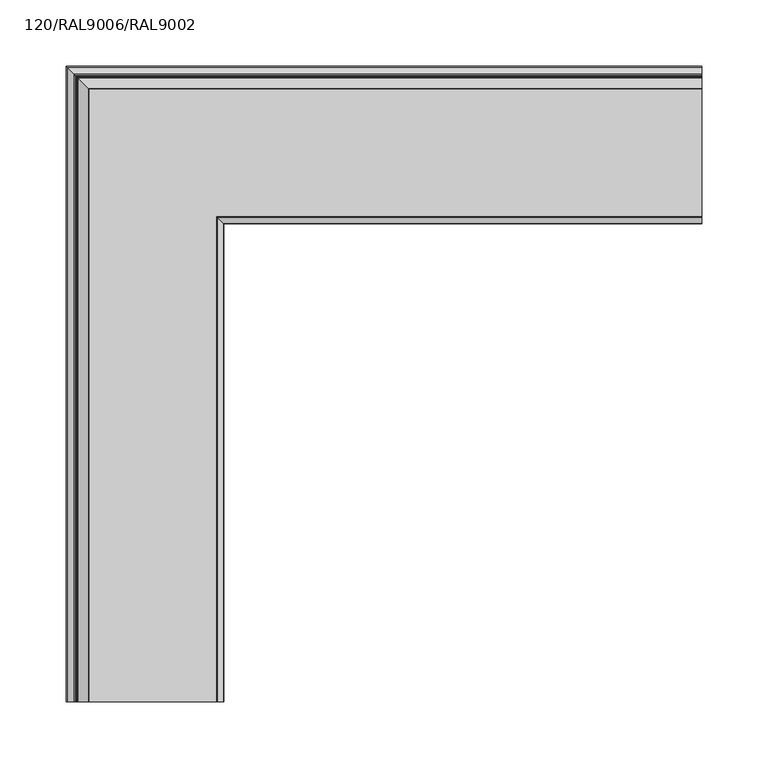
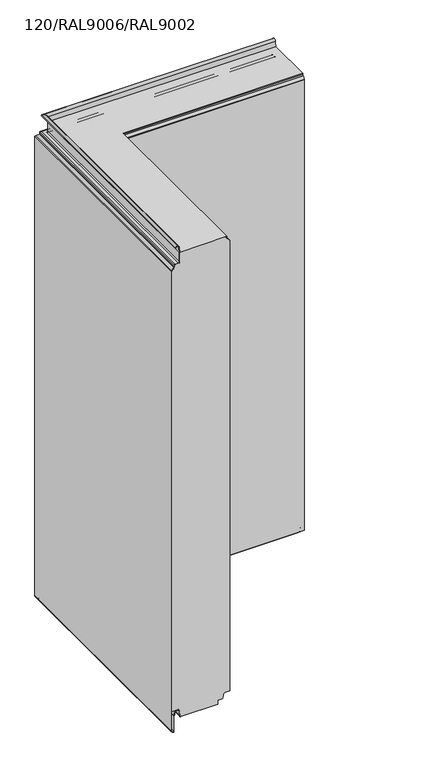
"""IFC4 building model written with IfcOpenShell, lengths in millimetres: plate geometry, TR_C_H_FHL_Corner_Tr_B : 120/RAL9006/RAL9002."""

from ifc_helpers import new_model, si_unit, frame, origin, place, context, project, spatial, polyline, circle_curve, ellipse_curve, source, transform, mapped, element, save
from ifc_brep_helpers import plane_surface, cylinder_surface, revolved_surface, advanced_brep


def plate_120_ral9006_ral9002_b9891fc8(model_context):
    return source(origin(), model_context, "Body", "AdvancedBrep", [
        advanced_brep(
        [(240.0, -17.4455763, 1000.0), (240.0, -113.2, 1000.0), (240.0, -113.2, 998.1), (240.0, -114.1665476, 995.7665476), (240.0, -118.5556349, 991.3774603), (240.0, -119.2, 989.8218254), (240.0, -119.2, 19.9), (240.0, -110.55, 19.9), (240.0, -106.364567, 16.3880048), (240.0, -105.0281817, 8.808987), (240.0, -103.9448932, 7.9), (240.0, -94.86, 7.9), (240.0, -94.86, 0.0), (240.0, -20.8, 0.0), (240.0, -19.7908279, 0.1), (240.0, -18.0972969, 1.6518352), (240.0, -17.2333835, 11.5264116), (240.0, -12.3520294, 15.9993484), (240.0, -0.8, 15.9993484), (240.0, -0.8, 963.4370797), (240.0, -1.3564971, 964.7805826), (240.0, -6.179899, 969.6039845), (240.0, -7.0, 971.5838835), (240.0, -7.0, 974.4), (240.0, -8.9, 976.3), (240.0, -14.8, 976.3), (240.0, -17.6, 979.1), (240.0, -17.6, 998.2349288), (-222.5544237, -17.4455763, 1000.0), (-222.5544237, -480.0, 1000.0), (-126.8, -480.0, 1000.0), (-126.8, -113.2, 1000.0), (-120.8, -119.2, 989.8218254), (-120.8, -119.2, 19.9), (-145.14, -94.86, 0.0), (-145.14, -480.0, 0.0), (-219.2, -480.0, 0.0), (-219.2, -20.8, 0.0), (-239.2, -0.8, 15.9993484), (-239.2, -0.8, 963.4370797), (-222.4, -480.0, 998.2349288), (-222.4, -480.0, 979.1), (-225.2, -480.0, 976.3), (-231.1, -480.0, 976.3), (-233.0, -480.0, 974.4), (-233.0, -480.0, 971.5838835), (-233.820101, -480.0, 969.6039845), (-238.6435029, -480.0, 964.7805826), (-239.2, -480.0, 963.4370797), (-239.2, -480.0, 15.9993484), (-227.6479706, -480.0, 15.9993484), (-222.7666165, -480.0, 11.5264116), (-221.9027031, -480.0, 1.6518352), (-220.2091721, -480.0, 0.1), (-145.14, -480.0, 7.9), (-136.0551068, -480.0, 7.9), (-134.9718183, -480.0, 8.808987), (-133.635433, -480.0, 16.3880048), (-129.45, -480.0, 19.9), (-120.8, -480.0, 19.9), (-120.8, -480.0, 989.8218254), (-121.4443651, -480.0, 991.3774603), (-125.8334524, -480.0, 995.7665476), (-126.8, -480.0, 998.1), (-126.8, -113.2, 998.1), (-125.8334524, -114.1665476, 995.7665476), (-121.4443651, -118.5556349, 991.3774603), (-129.45, -110.55, 19.9), (-133.635433, -106.364567, 16.3880048), (-134.9718183, -105.0281817, 8.808987), (-136.0551068, -103.9448932, 7.9), (-145.14, -94.86, 7.9), (-220.2091721, -19.7908279, 0.1), (-221.9027031, -18.0972969, 1.6518352), (-222.7666165, -17.2333835, 11.5264116), (-227.6479706, -12.3520294, 15.9993484), (-238.6435029, -1.3564971, 964.7805826), (-233.820101, -6.179899, 969.6039845), (-233.0, -7.0, 971.5838835), (-233.0, -7.0, 974.4), (-231.1, -8.9, 976.3), (-225.2, -14.8, 976.3), (-222.4, -17.6, 979.1), (-222.4, -17.6, 998.2349288)],
        [
            (0, 1),
            (1, 2),
            (2, 3, circle_curve(frame((240.0, -116.5, 998.1), z_axis=(-1.0, 0.0, 0.0), x_axis=(0.0, -1.0, 0.0)), 3.3)),
            (3, 4),
            (4, 5, circle_curve(frame((240.0, -117.0, 989.8218254), z_axis=(1.0, 0.0, 0.0), x_axis=(0.0, -1.0, 0.0)), 2.2)),
            (5, 6),
            (6, 7),
            (7, 8, circle_curve(frame((240.0, -110.55, 15.65), z_axis=(-1.0, 0.0, 0.0), x_axis=(0.0, -1.0, 0.0)), 4.25)),
            (8, 9),
            (9, 10, circle_curve(frame((240.0, -103.9448932, 9.0), z_axis=(1.0, 0.0, 0.0), x_axis=(0.0, -1.0, 0.0)), 1.1)),
            (10, 11),
            (11, 12),
            (12, 13),
            (13, 14),
            (14, 15, circle_curve(frame((240.0, -19.7908279, 1.8), z_axis=(1.0, 0.0, 0.0), x_axis=(0.0, -1.0, 0.0)), 1.7)),
            (15, 16),
            (16, 17, circle_curve(frame((240.0, -12.3520294, 11.0993484), z_axis=(-1.0, 0.0, 0.0), x_axis=(0.0, -1.0, 0.0)), 4.9)),
            (17, 18),
            (18, 19),
            (19, 20, circle_curve(frame((240.0, -2.7, 963.4370797), z_axis=(1.0, 0.0, 0.0), x_axis=(0.0, -1.0, 0.0)), 1.9)),
            (20, 21),
            (21, 22, circle_curve(frame((240.0, -4.2, 971.5838835), z_axis=(-1.0, 0.0, 0.0), x_axis=(0.0, -1.0, 0.0)), 2.8)),
            (22, 23),
            (23, 24, circle_curve(frame((240.0, -8.9, 974.4), z_axis=(1.0, 0.0, 0.0), x_axis=(0.0, -1.0, 0.0)), 1.9)),
            (24, 25),
            (25, 26, circle_curve(frame((240.0, -14.8, 979.1), z_axis=(-1.0, 0.0, 0.0), x_axis=(0.0, -1.0, 0.0)), 2.8)),
            (26, 27),
            (27, 0),
            (0, 28),
            (28, 29),
            (29, 30),
            (30, 31),
            (31, 1),
            (5, 32),
            (32, 33),
            (33, 6),
            (12, 34),
            (34, 35),
            (35, 36),
            (36, 37),
            (37, 13),
            (18, 38),
            (38, 39),
            (39, 19),
            (29, 40),
            (40, 41),
            (41, 42, circle_curve(frame((-225.2, -480.0, 979.1), z_axis=(0.0, 1.0, 0.0), x_axis=(1.0, 0.0, 0.0)), 2.8)),
            (42, 43),
            (43, 44, circle_curve(frame((-231.1, -480.0, 974.4), z_axis=(0.0, -1.0, 0.0), x_axis=(1.0, 0.0, 0.0)), 1.9)),
            (44, 45),
            (45, 46, circle_curve(frame((-235.8, -480.0, 971.5838835), z_axis=(0.0, 1.0, 0.0), x_axis=(1.0, 0.0, 0.0)), 2.8)),
            (46, 47),
            (47, 48, circle_curve(frame((-237.3, -480.0, 963.4370797), z_axis=(0.0, -1.0, 0.0), x_axis=(1.0, 0.0, 0.0)), 1.9)),
            (48, 49),
            (49, 50),
            (50, 51, circle_curve(frame((-227.6479706, -480.0, 11.0993484), z_axis=(0.0, 1.0, 0.0), x_axis=(1.0, 0.0, 0.0)), 4.9)),
            (51, 52),
            (52, 53, circle_curve(frame((-220.2091721, -480.0, 1.8), z_axis=(0.0, -1.0, 0.0), x_axis=(1.0, 0.0, 0.0)), 1.7)),
            (53, 36),
            (35, 54),
            (54, 55),
            (55, 56, circle_curve(frame((-136.0551068, -480.0, 9.0), z_axis=(0.0, -1.0, 0.0), x_axis=(1.0, 0.0, 0.0)), 1.1)),
            (56, 57),
            (57, 58, circle_curve(frame((-129.45, -480.0, 15.65), z_axis=(0.0, 1.0, 0.0), x_axis=(1.0, 0.0, 0.0)), 4.25)),
            (58, 59),
            (59, 60),
            (60, 61, circle_curve(frame((-123.0, -480.0, 989.8218254), z_axis=(0.0, -1.0, 0.0), x_axis=(1.0, 0.0, 0.0)), 2.2)),
            (61, 62),
            (62, 63, circle_curve(frame((-123.5, -480.0, 998.1), z_axis=(0.0, 1.0, 0.0), x_axis=(1.0, 0.0, 0.0)), 3.3)),
            (63, 30),
            (32, 60),
            (59, 33),
            (38, 49),
            (48, 39),
            (31, 64),
            (64, 2),
            (64, 65, ellipse_curve(frame((-123.5, -116.5, 998.1), z_axis=(-0.7071067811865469, -0.7071067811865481, 0.0), x_axis=(-0.7071067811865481, 0.7071067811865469, 0.0)), 4.6669048, 3.3)),
            (65, 3),
            (65, 66),
            (66, 4),
            (66, 32, ellipse_curve(frame((-123.0, -117.0, 989.8218254), z_axis=(0.7071067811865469, 0.7071067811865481, 0.0), x_axis=(0.7071067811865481, -0.7071067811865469, 0.0)), 3.1112698, 2.2)),
            (58, 67),
            (67, 7),
            (67, 68, ellipse_curve(frame((-129.45, -110.55, 15.65), z_axis=(-0.7071067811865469, -0.7071067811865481, 0.0), x_axis=(-0.7071067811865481, 0.7071067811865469, 0.0)), 6.0104076, 4.25)),
            (68, 8),
            (68, 69),
            (69, 9),
            (69, 70, ellipse_curve(frame((-136.0551068, -103.9448932, 9.0), z_axis=(0.7071067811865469, 0.7071067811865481, 0.0), x_axis=(0.7071067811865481, -0.7071067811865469, 0.0)), 1.5556349, 1.1)),
            (70, 10),
            (70, 55),
            (54, 71),
            (71, 11),
            (71, 34),
            (37, 72),
            (72, 14),
            (72, 73, ellipse_curve(frame((-220.2091721, -19.7908279, 1.8), z_axis=(0.7071067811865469, 0.7071067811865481, 0.0), x_axis=(0.7071067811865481, -0.7071067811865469, 0.0)), 2.4041631, 1.7)),
            (73, 15),
            (73, 74),
            (74, 16),
            (74, 75, ellipse_curve(frame((-227.6479706, -12.3520294, 11.0993484), z_axis=(-0.7071067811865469, -0.7071067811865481, 0.0), x_axis=(-0.7071067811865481, 0.7071067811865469, 0.0)), 6.9296465, 4.9)),
            (75, 17),
            (75, 50),
            (39, 76, ellipse_curve(frame((-237.3, -2.7, 963.4370797), z_axis=(0.7071067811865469, 0.7071067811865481, 0.0), x_axis=(0.7071067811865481, -0.7071067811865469, 0.0)), 2.6870058, 1.9)),
            (76, 20),
            (76, 77),
            (77, 21),
            (77, 78, ellipse_curve(frame((-235.8, -4.2, 971.5838835), z_axis=(-0.7071067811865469, -0.7071067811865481, 0.0), x_axis=(-0.7071067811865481, 0.7071067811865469, 0.0)), 3.959798, 2.8)),
            (78, 22),
            (78, 79),
            (79, 23),
            (79, 80, ellipse_curve(frame((-231.1, -8.9, 974.4), z_axis=(0.7071067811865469, 0.7071067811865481, 0.0), x_axis=(0.7071067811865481, -0.7071067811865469, 0.0)), 2.6870058, 1.9)),
            (80, 24),
            (80, 43),
            (42, 81),
            (81, 25),
            (81, 82, ellipse_curve(frame((-225.2, -14.8, 979.1), z_axis=(-0.7071067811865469, -0.7071067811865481, 0.0), x_axis=(-0.7071067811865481, 0.7071067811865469, 0.0)), 3.959798, 2.8)),
            (82, 26),
            (82, 83),
            (83, 27),
            (83, 28),
            (63, 64),
            (62, 65),
            (61, 66),
            (57, 68),
            (56, 69),
            (53, 72),
            (52, 73),
            (51, 74),
            (47, 76),
            (46, 77),
            (45, 78),
            (44, 79),
            (41, 82),
            (40, 83),
        ],
        [
            plane_surface(frame((240.0, 0.0, 0.0), z_axis=(1.0, 0.0, 0.0), x_axis=(0.0, 0.0, 1.0))),
            plane_surface(frame((240.0, -17.4455763, 1000.0), z_axis=(0.0, 0.0, 1.0), x_axis=(-1.0, 0.0, 0.0))),
            plane_surface(frame((240.0, -119.2, 989.8218254), z_axis=(0.0, -1.0, 0.0), x_axis=(-1.0, 0.0, 0.0))),
            plane_surface(frame((240.0, -94.86, 0.0), z_axis=(0.0, 0.0, -1.0), x_axis=(-1.0, 0.0, 0.0))),
            plane_surface(frame((240.0, -0.8, 15.9993484), z_axis=(0.0, 1.0, 0.0), x_axis=(-1.0, 0.0, 0.0))),
            plane_surface(frame((-240.0, -480.0, 0.0), z_axis=(0.0, -1.0, 0.0), x_axis=(0.0, 0.0, 1.0))),
            plane_surface(frame((-120.8, -119.2, 989.8218254), z_axis=(1.0, 0.0, 0.0), x_axis=(0.0, -1.0, 0.0))),
            plane_surface(frame((-239.2, -0.8, 15.9993484), z_axis=(-1.0, 0.0, 0.0), x_axis=(0.0, -1.0, 0.0))),
            plane_surface(frame((240.0, -113.2, 1000.0), z_axis=(0.0, -1.0, 0.0), x_axis=(-1.0, 0.0, 0.0))),
            revolved_surface(polyline([(-126.80000003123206, -119.8, 998.1), (240.0, -119.8, 998.1)]), (240.0, -116.5, 998.1), (-1.0, 0.0, 0.0)),
            plane_surface(frame((240.0, -114.1665476, 995.7665476), z_axis=(0.0, -0.7071067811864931, 0.7071067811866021), x_axis=(-1.0, 0.0, 0.0))),
            cylinder_surface(frame((240.0, -117.0, 989.8218254), z_axis=(1.0, 0.0, 0.0), x_axis=(0.0, -1.0, 0.0)), 2.2),
            plane_surface(frame((240.0, -119.2, 19.9), z_axis=(0.0, 0.0, -1.0), x_axis=(-1.0, 0.0, 0.0))),
            revolved_surface(polyline([(-133.69999997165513, -114.8, 15.65), (240.0, -114.8, 15.65)]), (240.0, -110.55, 15.65), (-1.0, 0.0, 0.0)),
            plane_surface(frame((240.0, -106.364567, 16.3880048), z_axis=(0.0, -0.9848077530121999, -0.17364817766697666), x_axis=(-1.0, 0.0, 0.0))),
            cylinder_surface(frame((240.0, -103.9448932, 9.0), z_axis=(1.0, 0.0, 0.0), x_axis=(0.0, -1.0, 0.0)), 1.1),
            plane_surface(frame((240.0, -103.9448932, 7.9), z_axis=(0.0, 0.0, -1.0), x_axis=(-1.0, 0.0, 0.0))),
            plane_surface(frame((240.0, -94.86, 7.9), z_axis=(0.0, -1.0, 0.0), x_axis=(-1.0, 0.0, 0.0))),
            plane_surface(frame((240.0, -20.8, 0.0), z_axis=(0.0, 0.09860819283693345, -0.9951263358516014), x_axis=(-1.0, 0.0, 0.0))),
            cylinder_surface(frame((240.0, -19.7908279, 1.8), z_axis=(1.0, 0.0, 0.0), x_axis=(0.0, -1.0, 0.0)), 1.7),
            plane_surface(frame((240.0, -18.0972969, 1.6518352), z_axis=(0.0, 0.9961946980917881, -0.08715574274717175), x_axis=(-1.0, 0.0, 0.0))),
            revolved_surface(polyline([(-232.54797063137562, -17.252029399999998, 11.0993484), (240.0, -17.252029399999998, 11.0993484)]), (240.0, -12.3520294, 11.0993484), (-1.0, 0.0, 0.0)),
            plane_surface(frame((240.0, -12.3520294, 15.9993484), z_axis=(0.0, 0.0, -1.0), x_axis=(-1.0, 0.0, 0.0))),
            cylinder_surface(frame((240.0, -2.7, 963.4370797), z_axis=(1.0, 0.0, 0.0), x_axis=(0.0, -1.0, 0.0)), 1.9),
            plane_surface(frame((240.0, -1.3564971, 964.7805826), z_axis=(0.0, 0.7071067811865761, 0.707106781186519), x_axis=(-1.0, 0.0, 0.0))),
            revolved_surface(polyline([(-238.60000001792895, -7.0, 971.5838835), (240.0, -7.0, 971.5838835)]), (240.0, -4.2, 971.5838835), (-1.0, 0.0, 0.0)),
            plane_surface(frame((240.0, -7.0, 971.5838835), z_axis=(0.0, 1.0, 0.0), x_axis=(-1.0, 0.0, 0.0))),
            cylinder_surface(frame((240.0, -8.9, 974.4), z_axis=(1.0, 0.0, 0.0), x_axis=(0.0, -1.0, 0.0)), 1.9),
            plane_surface(frame((240.0, -8.9, 976.3), z_axis=(0.0, 0.0, 1.0), x_axis=(-1.0, 0.0, 0.0))),
            revolved_surface(polyline([(-228.00000001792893, -17.6, 979.1), (240.0, -17.6, 979.1)]), (240.0, -14.8, 979.1), (-1.0, 0.0, 0.0)),
            plane_surface(frame((240.0, -17.6, 979.1), z_axis=(0.0, 1.0, 0.0), x_axis=(-1.0, 0.0, 0.0))),
            plane_surface(frame((240.0, -17.6, 998.2349288), z_axis=(0.0, 0.9961946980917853, -0.08715574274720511), x_axis=(-1.0, 0.0, 0.0))),
            plane_surface(frame((-126.8, -113.2, 1000.0), z_axis=(1.0, 0.0, 0.0), x_axis=(0.0, -1.0, 0.0))),
            revolved_surface(polyline([(-120.2, -480.0, 998.1), (-120.2, -113.19999996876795, 998.1)]), (-123.5, 0.0, 998.1), (0.0, -1.0, 0.0)),
            plane_surface(frame((-125.8334524, -114.1665476, 995.7665476), z_axis=(0.7071067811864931, 0.0, 0.7071067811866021), x_axis=(0.0, -1.0, 0.0))),
            cylinder_surface(frame((-123.0, 0.0, 989.8218254), z_axis=(0.0, 1.0, 0.0), x_axis=(1.0, 0.0, 0.0)), 2.2),
            revolved_surface(polyline([(-125.19999999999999, -480.0, 15.65), (-125.19999999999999, -106.30000002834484, 15.65)]), (-129.45, 0.0, 15.65), (0.0, -1.0, 0.0)),
            plane_surface(frame((-133.635433, -106.364567, 16.3880048), z_axis=(0.9848077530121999, 0.0, -0.17364817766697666), x_axis=(0.0, -1.0, 0.0))),
            cylinder_surface(frame((-136.0551068, 0.0, 9.0), z_axis=(0.0, 1.0, 0.0), x_axis=(1.0, 0.0, 0.0)), 1.1),
            plane_surface(frame((-145.14, -94.86, 7.9), z_axis=(1.0, 0.0, 0.0), x_axis=(0.0, -1.0, 0.0))),
            plane_surface(frame((-219.2, -20.8, 0.0), z_axis=(-0.09860819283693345, 0.0, -0.9951263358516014), x_axis=(0.0, -1.0, 0.0))),
            cylinder_surface(frame((-220.2091721, 0.0, 1.8), z_axis=(0.0, 1.0, 0.0), x_axis=(1.0, 0.0, 0.0)), 1.7),
            plane_surface(frame((-221.9027031, -18.0972969, 1.6518352), z_axis=(-0.9961946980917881, 0.0, -0.08715574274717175), x_axis=(0.0, -1.0, 0.0))),
            revolved_surface(polyline([(-222.7479706, -480.0, 11.0993484), (-222.7479706, -7.452029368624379, 11.0993484)]), (-227.6479706, 0.0, 11.0993484), (0.0, -1.0, 0.0)),
            cylinder_surface(frame((-237.3, 0.0, 963.4370797), z_axis=(0.0, 1.0, 0.0), x_axis=(1.0, 0.0, 0.0)), 1.9),
            plane_surface(frame((-238.6435029, -1.3564971, 964.7805826), z_axis=(-0.7071067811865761, 0.0, 0.707106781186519), x_axis=(0.0, -1.0, 0.0))),
            revolved_surface(polyline([(-233.0, -480.0, 971.5838835), (-233.0, -1.399999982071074, 971.5838835)]), (-235.8, 0.0, 971.5838835), (0.0, -1.0, 0.0)),
            plane_surface(frame((-233.0, -7.0, 971.5838835), z_axis=(-1.0, 0.0, 0.0), x_axis=(0.0, -1.0, 0.0))),
            cylinder_surface(frame((-231.1, 0.0, 974.4), z_axis=(0.0, 1.0, 0.0), x_axis=(1.0, 0.0, 0.0)), 1.9),
            revolved_surface(polyline([(-222.39999999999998, -480.0, 979.1), (-222.39999999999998, -11.999999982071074, 979.1)]), (-225.2, 0.0, 979.1), (0.0, -1.0, 0.0)),
            plane_surface(frame((-222.4, -17.6, 979.1), z_axis=(-1.0, 0.0, 0.0), x_axis=(0.0, -1.0, 0.0))),
            plane_surface(frame((-222.4, -17.6, 998.2349288), z_axis=(-0.9961946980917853, 0.0, -0.08715574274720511), x_axis=(0.0, -1.0, 0.0))),
        ],
        [
            (0, [[1, 2, 3, 4, 5, 6, 7, 8, 9, 10, 11, 12, 13, 14, 15, 16, 17, 18, 19, 20, 21, 22, 23, 24, 25, 26, 27, 28]]),
            (1, [[-1, 29, 30, 31, 32, 33]]),
            (2, [[-6, 34, 35, 36]]),
            (3, [[-13, 37, 38, 39, 40, 41]]),
            (4, [[-19, 42, 43, 44]]),
            (5, [[45, 46, 47, 48, 49, 50, 51, 52, 53, 54, 55, 56, 57, 58, 59, -39, 60, 61, 62, 63, 64, 65, 66, 67, 68, 69, 70, -31]]),
            (6, [[-35, 71, -66, 72]]),
            (7, [[-43, 73, -54, 74]]),
            (8, [[-2, -33, 75, 76]]),
            (9, [[-3, -76, 77, 78]]),
            (10, [[-4, -78, 79, 80]]),
            (11, [[-5, -80, 81, -34]]),
            (12, [[-7, -36, -72, -65, 82, 83]]),
            (13, [[-8, -83, 84, 85]]),
            (14, [[-9, -85, 86, 87]]),
            (15, [[-10, -87, 88, 89]]),
            (16, [[-11, -89, 90, -61, 91, 92]]),
            (17, [[-12, -92, 93, -37]]),
            (18, [[-14, -41, 94, 95]]),
            (19, [[-15, -95, 96, 97]]),
            (20, [[-16, -97, 98, 99]]),
            (21, [[-17, -99, 100, 101]]),
            (22, [[-18, -101, 102, -55, -73, -42]]),
            (23, [[-20, -44, 103, 104]]),
            (24, [[-21, -104, 105, 106]]),
            (25, [[-22, -106, 107, 108]]),
            (26, [[-23, -108, 109, 110]]),
            (27, [[-24, -110, 111, 112]]),
            (28, [[-25, -112, 113, -48, 114, 115]]),
            (29, [[-26, -115, 116, 117]]),
            (30, [[-27, -117, 118, 119]]),
            (31, [[-28, -119, 120, -29]]),
            (32, [[-75, -32, -70, 121]]),
            (33, [[-77, -121, -69, 122]]),
            (34, [[-79, -122, -68, 123]]),
            (35, [[-81, -123, -67, -71]]),
            (36, [[-84, -82, -64, 124]]),
            (37, [[-86, -124, -63, 125]]),
            (38, [[-88, -125, -62, -90]]),
            (39, [[-93, -91, -60, -38]]),
            (40, [[-94, -40, -59, 126]]),
            (41, [[-96, -126, -58, 127]]),
            (42, [[-98, -127, -57, 128]]),
            (43, [[-100, -128, -56, -102]]),
            (44, [[-103, -74, -53, 129]]),
            (45, [[-105, -129, -52, 130]]),
            (46, [[-107, -130, -51, 131]]),
            (47, [[-109, -131, -50, 132]]),
            (48, [[-111, -132, -49, -113]]),
            (49, [[-116, -114, -47, 133]]),
            (50, [[-118, -133, -46, 134]]),
            (51, [[-120, -134, -45, -30]]),
        ],
    ),
        advanced_brep(
        [(240.0, 0.0, 963.4370797), (240.0, -0.7908117, 965.346268), (240.0, -5.6142136, 970.1696699), (240.0, -6.2, 971.5838835), (240.0, -6.2, 974.4), (240.0, -8.9, 977.1), (240.0, -14.8, 977.1), (240.0, -16.8, 979.1), (240.0, -16.8, 998.2), (240.0, -15.7082379, 1010.6788984), (240.0, -9.4947554, 1011.4418181), (240.0, -9.1851412, 1010.5426332), (240.0, -8.4287263, 1010.8030877), (240.0, -8.7383405, 1011.7022726), (240.0, -16.5051936, 1010.748623), (240.0, -17.6, 998.2349288), (240.0, -17.6, 979.1), (240.0, -14.8, 976.3), (240.0, -8.9, 976.3), (240.0, -7.0, 974.4), (240.0, -7.0, 971.5838835), (240.0, -6.179899, 969.6039845), (240.0, -1.3564971, 964.7805826), (240.0, -0.8, 963.4370797), (240.0, -0.8, -25.1006169), (240.0, -1.4042031, -26.4901889), (240.0, -3.3498018, -28.3044891), (240.0, -5.2, -27.5), (240.0, -5.2, 4.8267282), (240.0, -5.3797887, 5.9011031), (240.0, -7.7189884, 12.6946324), (240.0, -17.2333835, 11.5264116), (240.0, -18.0972969, 1.6518352), (240.0, -19.7908279, 0.1), (240.0, -20.8, 0.1), (240.0, -20.8, -0.7), (240.0, -19.7908279, -0.7), (240.0, -17.3003412, 1.5821106), (240.0, -16.4364277, 11.456687), (240.0, -8.4754033, 12.4341779), (240.0, -6.1362036, 5.6406486), (240.0, -6.0, 4.8267282), (240.0, -6.0, -27.5), (240.0, -2.8042031, -28.889572), (240.0, -0.8586044, -27.0752719), (240.0, 0.0, -25.1006169), (-239.2, -0.8, 963.4370797), (-239.2, -0.8, -25.1006169), (-240.0, 0.0, -25.1006169), (-240.0, 0.0, 963.4370797), (-240.0, -480.0, 963.4370797), (-240.0, -480.0, -25.1006169), (-239.1413956, -480.0, -27.0752719), (-237.1957969, -480.0, -28.889572), (-234.0, -480.0, -27.5), (-234.0, -480.0, 4.8267282), (-233.8637964, -480.0, 5.6406486), (-231.5245967, -480.0, 12.4341779), (-223.5635723, -480.0, 11.456687), (-222.6996588, -480.0, 1.5821106), (-220.2091721, -480.0, -0.7), (-219.2, -480.0, -0.7), (-219.2, -480.0, 0.1), (-220.2091721, -480.0, 0.1), (-221.9027031, -480.0, 1.6518352), (-222.7666165, -480.0, 11.5264116), (-232.2810116, -480.0, 12.6946324), (-234.6202113, -480.0, 5.9011031), (-234.8, -480.0, 4.8267282), (-234.8, -480.0, -27.5), (-236.6501982, -480.0, -28.3044891), (-238.5957969, -480.0, -26.4901889), (-239.2, -480.0, -25.1006169), (-239.2, -480.0, 963.4370797), (-238.6435029, -480.0, 964.7805826), (-233.820101, -480.0, 969.6039845), (-233.0, -480.0, 971.5838835), (-233.0, -480.0, 974.4), (-231.1, -480.0, 976.3), (-225.2, -480.0, 976.3), (-222.4, -480.0, 979.1), (-222.4, -480.0, 998.2349288), (-223.4948064, -480.0, 1010.748623), (-231.2616595, -480.0, 1011.7022726), (-231.5712737, -480.0, 1010.8030877), (-230.8148588, -480.0, 1010.5426332), (-230.5052446, -480.0, 1011.4418181), (-224.2917621, -480.0, 1010.6788984), (-223.2, -480.0, 998.2), (-223.2, -480.0, 979.1), (-225.2, -480.0, 977.1), (-231.1, -480.0, 977.1), (-233.8, -480.0, 974.4), (-233.8, -480.0, 971.5838835), (-234.3857864, -480.0, 970.1696699), (-239.2091883, -480.0, 965.346268), (-239.2091883, -0.7908117, 965.346268), (-234.3857864, -5.6142136, 970.1696699), (-233.8, -6.2, 971.5838835), (-233.8, -6.2, 974.4), (-231.1, -8.9, 977.1), (-225.2, -14.8, 977.1), (-223.2, -16.8, 979.1), (-223.2, -16.8, 998.2), (-224.2917621, -15.7082379, 1010.6788984), (-230.5052446, -9.4947554, 1011.4418181), (-230.8148588, -9.1851412, 1010.5426332), (-231.5712737, -8.4287263, 1010.8030877), (-231.2616595, -8.7383405, 1011.7022726), (-223.4948064, -16.5051936, 1010.748623), (-222.4, -17.6, 998.2349288), (-222.4, -17.6, 979.1), (-225.2, -14.8, 976.3), (-231.1, -8.9, 976.3), (-233.0, -7.0, 974.4), (-233.0, -7.0, 971.5838835), (-233.820101, -6.179899, 969.6039845), (-238.6435029, -1.3564971, 964.7805826), (-238.5957969, -1.4042031, -26.4901889), (-236.6501982, -3.3498018, -28.3044891), (-234.8, -5.2, -27.5), (-234.8, -5.2, 4.8267282), (-234.6202113, -5.3797887, 5.9011031), (-232.2810116, -7.7189884, 12.6946324), (-222.7666165, -17.2333835, 11.5264116), (-221.9027031, -18.0972969, 1.6518352), (-220.2091721, -19.7908279, 0.1), (-219.2, -20.8, 0.1), (-219.2, -20.8, -0.7), (-220.2091721, -19.7908279, -0.7), (-222.6996588, -17.3003412, 1.5821106), (-223.5635723, -16.4364277, 11.456687), (-231.5245967, -8.4754033, 12.4341779), (-233.8637964, -6.1362036, 5.6406486), (-234.0, -6.0, 4.8267282), (-234.0, -6.0, -27.5), (-237.1957969, -2.8042031, -28.889572), (-239.1413956, -0.8586044, -27.0752719)],
        [
            (0, 1, circle_curve(frame((240.0, -2.7, 963.4370797), z_axis=(1.0, 0.0, 0.0), x_axis=(0.0, -1.0, 0.0)), 2.7)),
            (1, 2),
            (2, 3, circle_curve(frame((240.0, -4.2, 971.5838835), z_axis=(-1.0, 0.0, 0.0), x_axis=(0.0, -1.0, 0.0)), 2.0)),
            (3, 4),
            (4, 5, circle_curve(frame((240.0, -8.9, 974.4), z_axis=(1.0, 0.0, 0.0), x_axis=(0.0, -1.0, 0.0)), 2.7)),
            (5, 6),
            (6, 7, circle_curve(frame((240.0, -14.8, 979.1), z_axis=(-1.0, 0.0, 0.0), x_axis=(0.0, -1.0, 0.0)), 2.0)),
            (7, 8),
            (8, 9),
            (9, 10, circle_curve(frame((240.0, -12.5204148, 1010.4), z_axis=(-1.0, 0.0, 0.0), x_axis=(0.0, -1.0, 0.0)), 3.2)),
            (10, 11),
            (11, 12),
            (12, 13),
            (13, 14, circle_curve(frame((240.0, -12.5204148, 1010.4), z_axis=(1.0, 0.0, 0.0), x_axis=(0.0, -1.0, 0.0)), 4.0)),
            (14, 15),
            (15, 16),
            (16, 17, circle_curve(frame((240.0, -14.8, 979.1), z_axis=(1.0, 0.0, 0.0), x_axis=(0.0, -1.0, 0.0)), 2.8)),
            (17, 18),
            (18, 19, circle_curve(frame((240.0, -8.9, 974.4), z_axis=(-1.0, 0.0, 0.0), x_axis=(0.0, -1.0, 0.0)), 1.9)),
            (19, 20),
            (20, 21, circle_curve(frame((240.0, -4.2, 971.5838835), z_axis=(1.0, 0.0, 0.0), x_axis=(0.0, -1.0, 0.0)), 2.8)),
            (21, 22),
            (22, 23, circle_curve(frame((240.0, -2.7, 963.4370797), z_axis=(-1.0, 0.0, 0.0), x_axis=(0.0, -1.0, 0.0)), 1.9)),
            (23, 24),
            (24, 25, circle_curve(frame((240.0, -2.7, -25.1006169), z_axis=(-1.0, 0.0, 0.0), x_axis=(0.0, -1.0, 0.0)), 1.9)),
            (25, 26),
            (26, 27, circle_curve(frame((240.0, -4.1, -27.5), z_axis=(-1.0, 0.0, 0.0), x_axis=(0.0, -1.0, 0.0)), 1.1)),
            (27, 28),
            (28, 29, circle_curve(frame((240.0, -8.5, 4.8267282), z_axis=(1.0, 0.0, 0.0), x_axis=(0.0, -1.0, 0.0)), 3.3)),
            (29, 30),
            (30, 31, circle_curve(frame((240.0, -12.3520294, 11.0993484), z_axis=(1.0, 0.0, 0.0), x_axis=(0.0, -1.0, 0.0)), 4.9)),
            (31, 32),
            (32, 33, circle_curve(frame((240.0, -19.7908279, 1.8), z_axis=(-1.0, 0.0, 0.0), x_axis=(0.0, -1.0, 0.0)), 1.7)),
            (33, 34),
            (34, 35),
            (35, 36),
            (36, 37, circle_curve(frame((240.0, -19.7908279, 1.8), z_axis=(1.0, 0.0, 0.0), x_axis=(0.0, -1.0, 0.0)), 2.5)),
            (37, 38),
            (38, 39, circle_curve(frame((240.0, -12.3520294, 11.0993484), z_axis=(-1.0, 0.0, 0.0), x_axis=(0.0, -1.0, 0.0)), 4.1)),
            (39, 40),
            (40, 41, circle_curve(frame((240.0, -8.5, 4.8267282), z_axis=(-1.0, 0.0, 0.0), x_axis=(0.0, -1.0, 0.0)), 2.5)),
            (41, 42),
            (42, 43, circle_curve(frame((240.0, -4.1, -27.5), z_axis=(1.0, 0.0, 0.0), x_axis=(0.0, -1.0, 0.0)), 1.9)),
            (43, 44),
            (44, 45, circle_curve(frame((240.0, -2.7, -25.1006169), z_axis=(1.0, 0.0, 0.0), x_axis=(0.0, -1.0, 0.0)), 2.7)),
            (45, 0),
            (23, 46),
            (46, 47),
            (47, 24),
            (45, 48),
            (48, 49),
            (49, 0),
            (50, 51),
            (51, 52, circle_curve(frame((-237.3, -480.0, -25.1006169), z_axis=(0.0, -1.0, 0.0), x_axis=(1.0, 0.0, 0.0)), 2.7)),
            (52, 53),
            (53, 54, circle_curve(frame((-235.9, -480.0, -27.5), z_axis=(0.0, -1.0, 0.0), x_axis=(1.0, 0.0, 0.0)), 1.9)),
            (54, 55),
            (55, 56, circle_curve(frame((-231.5, -480.0, 4.8267282), z_axis=(0.0, 1.0, 0.0), x_axis=(1.0, 0.0, 0.0)), 2.5)),
            (56, 57),
            (57, 58, circle_curve(frame((-227.6479706, -480.0, 11.0993484), z_axis=(0.0, 1.0, 0.0), x_axis=(1.0, 0.0, 0.0)), 4.1)),
            (58, 59),
            (59, 60, circle_curve(frame((-220.2091721, -480.0, 1.8), z_axis=(0.0, -1.0, 0.0), x_axis=(1.0, 0.0, 0.0)), 2.5)),
            (60, 61),
            (61, 62),
            (62, 63),
            (63, 64, circle_curve(frame((-220.2091721, -480.0, 1.8), z_axis=(0.0, 1.0, 0.0), x_axis=(1.0, 0.0, 0.0)), 1.7)),
            (64, 65),
            (65, 66, circle_curve(frame((-227.6479706, -480.0, 11.0993484), z_axis=(0.0, -1.0, 0.0), x_axis=(1.0, 0.0, 0.0)), 4.9)),
            (66, 67),
            (67, 68, circle_curve(frame((-231.5, -480.0, 4.8267282), z_axis=(0.0, -1.0, 0.0), x_axis=(1.0, 0.0, 0.0)), 3.3)),
            (68, 69),
            (69, 70, circle_curve(frame((-235.9, -480.0, -27.5), z_axis=(0.0, 1.0, 0.0), x_axis=(1.0, 0.0, 0.0)), 1.1)),
            (70, 71),
            (71, 72, circle_curve(frame((-237.3, -480.0, -25.1006169), z_axis=(0.0, 1.0, 0.0), x_axis=(1.0, 0.0, 0.0)), 1.9)),
            (72, 73),
            (73, 74, circle_curve(frame((-237.3, -480.0, 963.4370797), z_axis=(0.0, 1.0, 0.0), x_axis=(1.0, 0.0, 0.0)), 1.9)),
            (74, 75),
            (75, 76, circle_curve(frame((-235.8, -480.0, 971.5838835), z_axis=(0.0, -1.0, 0.0), x_axis=(1.0, 0.0, 0.0)), 2.8)),
            (76, 77),
            (77, 78, circle_curve(frame((-231.1, -480.0, 974.4), z_axis=(0.0, 1.0, 0.0), x_axis=(1.0, 0.0, 0.0)), 1.9)),
            (78, 79),
            (79, 80, circle_curve(frame((-225.2, -480.0, 979.1), z_axis=(0.0, -1.0, 0.0), x_axis=(1.0, 0.0, 0.0)), 2.8)),
            (80, 81),
            (81, 82),
            (82, 83, circle_curve(frame((-227.4795852, -480.0, 1010.4), z_axis=(0.0, -1.0, 0.0), x_axis=(1.0, 0.0, 0.0)), 4.0)),
            (83, 84),
            (84, 85),
            (85, 86),
            (86, 87, circle_curve(frame((-227.4795852, -480.0, 1010.4), z_axis=(0.0, 1.0, 0.0), x_axis=(1.0, 0.0, 0.0)), 3.2)),
            (87, 88),
            (88, 89),
            (89, 90, circle_curve(frame((-225.2, -480.0, 979.1), z_axis=(0.0, 1.0, 0.0), x_axis=(1.0, 0.0, 0.0)), 2.0)),
            (90, 91),
            (91, 92, circle_curve(frame((-231.1, -480.0, 974.4), z_axis=(0.0, -1.0, 0.0), x_axis=(1.0, 0.0, 0.0)), 2.7)),
            (92, 93),
            (93, 94, circle_curve(frame((-235.8, -480.0, 971.5838835), z_axis=(0.0, 1.0, 0.0), x_axis=(1.0, 0.0, 0.0)), 2.0)),
            (94, 95),
            (95, 50, circle_curve(frame((-237.3, -480.0, 963.4370797), z_axis=(0.0, -1.0, 0.0), x_axis=(1.0, 0.0, 0.0)), 2.7)),
            (46, 73),
            (72, 47),
            (48, 51),
            (50, 49),
            (49, 96, ellipse_curve(frame((-237.3, -2.7, 963.4370797), z_axis=(0.7071067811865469, 0.7071067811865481, 0.0), x_axis=(0.7071067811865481, -0.7071067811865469, 0.0)), 3.8183766, 2.7)),
            (96, 1),
            (96, 97),
            (97, 2),
            (97, 98, ellipse_curve(frame((-235.8, -4.2, 971.5838835), z_axis=(-0.7071067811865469, -0.7071067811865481, 0.0), x_axis=(-0.7071067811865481, 0.7071067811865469, 0.0)), 2.8284271, 2.0)),
            (98, 3),
            (98, 99),
            (99, 4),
            (99, 100, ellipse_curve(frame((-231.1, -8.9, 974.4), z_axis=(0.7071067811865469, 0.7071067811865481, 0.0), x_axis=(0.7071067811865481, -0.7071067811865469, 0.0)), 3.8183766, 2.7)),
            (100, 5),
            (100, 91),
            (90, 101),
            (101, 6),
            (101, 102, ellipse_curve(frame((-225.2, -14.8, 979.1), z_axis=(-0.7071067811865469, -0.7071067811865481, 0.0), x_axis=(-0.7071067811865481, 0.7071067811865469, 0.0)), 2.8284271, 2.0)),
            (102, 7),
            (102, 103),
            (103, 8),
            (103, 104),
            (104, 9),
            (104, 105, ellipse_curve(frame((-227.4795852, -12.5204148, 1010.4), z_axis=(-0.7071067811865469, -0.7071067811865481, 0.0), x_axis=(-0.7071067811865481, 0.7071067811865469, 0.0)), 4.5254834, 3.2)),
            (105, 10),
            (105, 106),
            (106, 11),
            (106, 107),
            (107, 12),
            (107, 108),
            (108, 13),
            (108, 109, ellipse_curve(frame((-227.4795852, -12.5204148, 1010.4), z_axis=(0.7071067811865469, 0.7071067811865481, 0.0), x_axis=(0.7071067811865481, -0.7071067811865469, 0.0)), 5.6568542, 4.0)),
            (109, 14),
            (109, 110),
            (110, 15),
            (110, 111),
            (111, 16),
            (111, 112, ellipse_curve(frame((-225.2, -14.8, 979.1), z_axis=(0.7071067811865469, 0.7071067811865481, 0.0), x_axis=(0.7071067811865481, -0.7071067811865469, 0.0)), 3.959798, 2.8)),
            (112, 17),
            (112, 79),
            (78, 113),
            (113, 18),
            (113, 114, ellipse_curve(frame((-231.1, -8.9, 974.4), z_axis=(-0.7071067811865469, -0.7071067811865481, 0.0), x_axis=(-0.7071067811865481, 0.7071067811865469, 0.0)), 2.6870058, 1.9)),
            (114, 19),
            (114, 115),
            (115, 20),
            (115, 116, ellipse_curve(frame((-235.8, -4.2, 971.5838835), z_axis=(0.7071067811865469, 0.7071067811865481, 0.0), x_axis=(0.7071067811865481, -0.7071067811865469, 0.0)), 3.959798, 2.8)),
            (116, 21),
            (116, 117),
            (117, 22),
            (117, 46, ellipse_curve(frame((-237.3, -2.7, 963.4370797), z_axis=(-0.7071067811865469, -0.7071067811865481, 0.0), x_axis=(-0.7071067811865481, 0.7071067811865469, 0.0)), 2.6870058, 1.9)),
            (47, 118, ellipse_curve(frame((-237.3, -2.7, -25.1006169), z_axis=(-0.7071067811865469, -0.7071067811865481, 0.0), x_axis=(-0.7071067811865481, 0.7071067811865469, 0.0)), 2.6870058, 1.9)),
            (118, 25),
            (118, 119),
            (119, 26),
            (119, 120, ellipse_curve(frame((-235.9, -4.1, -27.5), z_axis=(-0.7071067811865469, -0.7071067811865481, 0.0), x_axis=(-0.7071067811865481, 0.7071067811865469, 0.0)), 1.5556349, 1.1)),
            (120, 27),
            (120, 121),
            (121, 28),
            (121, 122, ellipse_curve(frame((-231.5, -8.5, 4.8267282), z_axis=(0.7071067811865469, 0.7071067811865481, 0.0), x_axis=(0.7071067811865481, -0.7071067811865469, 0.0)), 4.6669048, 3.3)),
            (122, 29),
            (122, 123),
            (123, 30),
            (123, 124, ellipse_curve(frame((-227.6479706, -12.3520294, 11.0993484), z_axis=(0.7071067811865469, 0.7071067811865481, 0.0), x_axis=(0.7071067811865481, -0.7071067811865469, 0.0)), 6.9296465, 4.9)),
            (124, 31),
            (124, 125),
            (125, 32),
            (125, 126, ellipse_curve(frame((-220.2091721, -19.7908279, 1.8), z_axis=(-0.7071067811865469, -0.7071067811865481, 0.0), x_axis=(-0.7071067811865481, 0.7071067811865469, 0.0)), 2.4041631, 1.7)),
            (126, 33),
            (126, 63),
            (62, 127),
            (127, 34),
            (127, 128),
            (128, 35),
            (128, 61),
            (60, 129),
            (129, 36),
            (129, 130, ellipse_curve(frame((-220.2091721, -19.7908279, 1.8), z_axis=(0.7071067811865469, 0.7071067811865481, 0.0), x_axis=(0.7071067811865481, -0.7071067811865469, 0.0)), 3.5355339, 2.5)),
            (130, 37),
            (130, 131),
            (131, 38),
            (131, 132, ellipse_curve(frame((-227.6479706, -12.3520294, 11.0993484), z_axis=(-0.7071067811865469, -0.7071067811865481, 0.0), x_axis=(-0.7071067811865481, 0.7071067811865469, 0.0)), 5.7982756, 4.1)),
            (132, 39),
            (132, 133),
            (133, 40),
            (133, 134, ellipse_curve(frame((-231.5, -8.5, 4.8267282), z_axis=(-0.7071067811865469, -0.7071067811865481, 0.0), x_axis=(-0.7071067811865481, 0.7071067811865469, 0.0)), 3.5355339, 2.5)),
            (134, 41),
            (134, 135),
            (135, 42),
            (135, 136, ellipse_curve(frame((-235.9, -4.1, -27.5), z_axis=(0.7071067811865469, 0.7071067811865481, 0.0), x_axis=(0.7071067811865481, -0.7071067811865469, 0.0)), 2.6870058, 1.9)),
            (136, 43),
            (136, 137),
            (137, 44),
            (137, 48, ellipse_curve(frame((-237.3, -2.7, -25.1006169), z_axis=(0.7071067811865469, 0.7071067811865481, 0.0), x_axis=(0.7071067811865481, -0.7071067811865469, 0.0)), 3.8183766, 2.7)),
            (95, 96),
            (94, 97),
            (93, 98),
            (92, 99),
            (89, 102),
            (88, 103),
            (87, 104),
            (86, 105),
            (85, 106),
            (84, 107),
            (83, 108),
            (82, 109),
            (81, 110),
            (80, 111),
            (77, 114),
            (76, 115),
            (75, 116),
            (74, 117),
            (71, 118),
            (70, 119),
            (69, 120),
            (68, 121),
            (67, 122),
            (66, 123),
            (65, 124),
            (64, 125),
            (59, 130),
            (58, 131),
            (57, 132),
            (56, 133),
            (55, 134),
            (54, 135),
            (53, 136),
            (52, 137),
        ],
        [
            plane_surface(frame((240.0, 0.0, 0.0), z_axis=(1.0, 0.0, 0.0), x_axis=(0.0, 0.0, 1.0))),
            plane_surface(frame((240.0, -0.8, 963.4370797), z_axis=(0.0, -1.0, 0.0), x_axis=(-1.0, 0.0, 0.0))),
            plane_surface(frame((240.0, 0.0, -25.1006169), z_axis=(0.0, 1.0, 0.0), x_axis=(-1.0, 0.0, 0.0))),
            plane_surface(frame((-240.0, -480.0, 0.0), z_axis=(0.0, -1.0, 0.0), x_axis=(0.0, 0.0, 1.0))),
            plane_surface(frame((-239.2, -0.8, 963.4370797), z_axis=(1.0, 0.0, 0.0), x_axis=(0.0, -1.0, 0.0))),
            plane_surface(frame((-240.0, 0.0, -25.1006169), z_axis=(-1.0, 0.0, 0.0), x_axis=(0.0, -1.0, 0.0))),
            cylinder_surface(frame((240.0, -2.7, 963.4370797), z_axis=(1.0, 0.0, 0.0), x_axis=(0.0, -1.0, 0.0)), 2.7),
            plane_surface(frame((240.0, -0.7908117, 965.346268), z_axis=(0.0, 0.7071067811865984, 0.7071067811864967), x_axis=(-1.0, 0.0, 0.0))),
            revolved_surface(polyline([(-237.7999999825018, -6.2, 971.5838835), (240.0, -6.2, 971.5838835)]), (240.0, -4.2, 971.5838835), (-1.0, 0.0, 0.0)),
            plane_surface(frame((240.0, -6.2, 971.5838835), z_axis=(0.0, 1.0, 0.0), x_axis=(-1.0, 0.0, 0.0))),
            cylinder_surface(frame((240.0, -8.9, 974.4), z_axis=(1.0, 0.0, 0.0), x_axis=(0.0, -1.0, 0.0)), 2.7),
            plane_surface(frame((240.0, -8.9, 977.1), z_axis=(0.0, 0.0, 1.0), x_axis=(-1.0, 0.0, 0.0))),
            revolved_surface(polyline([(-227.19999998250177, -16.8, 979.1), (240.0, -16.8, 979.1)]), (240.0, -14.8, 979.1), (-1.0, 0.0, 0.0)),
            plane_surface(frame((240.0, -16.8, 979.1), z_axis=(0.0, 1.0, 0.0), x_axis=(-1.0, 0.0, 0.0))),
            plane_surface(frame((240.0, -16.8, 998.2), z_axis=(0.0, 0.996194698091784, -0.08715574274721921), x_axis=(-1.0, 0.0, 0.0))),
            revolved_surface(polyline([(-230.67958520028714, -15.7204148, 1010.4), (240.0, -15.7204148, 1010.4)]), (240.0, -12.5204148, 1010.4), (-1.0, 0.0, 0.0)),
            plane_surface(frame((240.0, -9.4947554, 1011.4418181), z_axis=(0.0, -0.9455185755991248, -0.32556815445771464), x_axis=(-1.0, 0.0, 0.0))),
            plane_surface(frame((240.0, -9.1851412, 1010.5426332), z_axis=(0.0, 0.32556815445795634, -0.9455185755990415), x_axis=(-1.0, 0.0, 0.0))),
            plane_surface(frame((240.0, -8.4287263, 1010.8030877), z_axis=(0.0, 0.9455185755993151, 0.3255681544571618), x_axis=(-1.0, 0.0, 0.0))),
            cylinder_surface(frame((240.0, -12.5204148, 1010.4), z_axis=(1.0, 0.0, 0.0), x_axis=(0.0, -1.0, 0.0)), 4.0),
            plane_surface(frame((240.0, -16.5051936, 1010.748623), z_axis=(0.0, -0.9961946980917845, 0.08715574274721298), x_axis=(-1.0, 0.0, 0.0))),
            plane_surface(frame((240.0, -17.6, 998.2349288), z_axis=(0.0, -1.0, 0.0), x_axis=(-1.0, 0.0, 0.0))),
            cylinder_surface(frame((240.0, -14.8, 979.1), z_axis=(1.0, 0.0, 0.0), x_axis=(0.0, -1.0, 0.0)), 2.8),
            plane_surface(frame((240.0, -14.8, 976.3), z_axis=(0.0, 0.0, -1.0), x_axis=(-1.0, 0.0, 0.0))),
            revolved_surface(polyline([(-233.0000000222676, -10.8, 974.4), (240.0, -10.8, 974.4)]), (240.0, -8.9, 974.4), (-1.0, 0.0, 0.0)),
            plane_surface(frame((240.0, -7.0, 974.4), z_axis=(0.0, -1.0, 0.0), x_axis=(-1.0, 0.0, 0.0))),
            cylinder_surface(frame((240.0, -4.2, 971.5838835), z_axis=(1.0, 0.0, 0.0), x_axis=(0.0, -1.0, 0.0)), 2.8),
            plane_surface(frame((240.0, -6.179899, 969.6039845), z_axis=(0.0, -0.707106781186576, -0.7071067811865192), x_axis=(-1.0, 0.0, 0.0))),
            revolved_surface(polyline([(-239.2000000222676, -4.6, 963.4370797), (240.0, -4.6, 963.4370797)]), (240.0, -2.7, 963.4370797), (-1.0, 0.0, 0.0)),
            revolved_surface(polyline([(-239.2000000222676, -4.6, -25.1006169), (240.0, -4.6, -25.1006169)]), (240.0, -2.7, -25.1006169), (-1.0, 0.0, 0.0)),
            plane_surface(frame((240.0, -1.4042031, -26.4901889), z_axis=(0.0, -0.6819983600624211, 0.7313537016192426), x_axis=(-1.0, 0.0, 0.0))),
            revolved_surface(polyline([(-236.9999999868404, -5.199999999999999, -27.5), (240.0, -5.199999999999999, -27.5)]), (240.0, -4.1, -27.5), (-1.0, 0.0, 0.0)),
            plane_surface(frame((240.0, -5.2, -27.5), z_axis=(0.0, 1.0, 0.0), x_axis=(-1.0, 0.0, 0.0))),
            cylinder_surface(frame((240.0, -8.5, 4.8267282), z_axis=(1.0, 0.0, 0.0), x_axis=(0.0, -1.0, 0.0)), 3.3),
            plane_surface(frame((240.0, -5.3797887, 5.9011031), z_axis=(0.0, 0.9455185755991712, 0.32556815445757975), x_axis=(-1.0, 0.0, 0.0))),
            cylinder_surface(frame((240.0, -12.3520294, 11.0993484), z_axis=(1.0, 0.0, 0.0), x_axis=(0.0, -1.0, 0.0)), 4.9),
            plane_surface(frame((240.0, -17.2333835, 11.5264116), z_axis=(0.0, -0.9961946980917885, 0.087155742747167), x_axis=(-1.0, 0.0, 0.0))),
            revolved_surface(polyline([(-221.90917213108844, -21.4908279, 1.8), (240.0, -21.4908279, 1.8)]), (240.0, -19.7908279, 1.8), (-1.0, 0.0, 0.0)),
            plane_surface(frame((240.0, -19.7908279, 0.1), z_axis=(0.0, 0.0, 1.0), x_axis=(-1.0, 0.0, 0.0))),
            plane_surface(frame((240.0, -20.8, 0.1), z_axis=(0.0, -1.0, 0.0), x_axis=(-1.0, 0.0, 0.0))),
            plane_surface(frame((240.0, -20.8, -0.7), z_axis=(0.0, 0.0, -1.0), x_axis=(-1.0, 0.0, 0.0))),
            cylinder_surface(frame((240.0, -19.7908279, 1.8), z_axis=(1.0, 0.0, 0.0), x_axis=(0.0, -1.0, 0.0)), 2.5),
            plane_surface(frame((240.0, -17.3003412, 1.5821106), z_axis=(0.0, 0.996194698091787, -0.08715574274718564), x_axis=(-1.0, 0.0, 0.0))),
            revolved_surface(polyline([(-231.74797059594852, -16.4520294, 11.0993484), (240.0, -16.4520294, 11.0993484)]), (240.0, -12.3520294, 11.0993484), (-1.0, 0.0, 0.0)),
            plane_surface(frame((240.0, -8.4754033, 12.4341779), z_axis=(0.0, -0.945518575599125, -0.3255681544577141), x_axis=(-1.0, 0.0, 0.0))),
            revolved_surface(polyline([(-234.0, -11.0, 4.8267282), (240.0, -11.0, 4.8267282)]), (240.0, -8.5, 4.8267282), (-1.0, 0.0, 0.0)),
            plane_surface(frame((240.0, -6.0, 4.8267282), z_axis=(0.0, -1.0, 0.0), x_axis=(-1.0, 0.0, 0.0))),
            cylinder_surface(frame((240.0, -4.1, -27.5), z_axis=(1.0, 0.0, 0.0), x_axis=(0.0, -1.0, 0.0)), 1.9),
            plane_surface(frame((240.0, -2.8042031, -28.889572), z_axis=(0.0, 0.6819983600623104, -0.7313537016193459), x_axis=(-1.0, 0.0, 0.0))),
            cylinder_surface(frame((240.0, -2.7, -25.1006169), z_axis=(1.0, 0.0, 0.0), x_axis=(0.0, -1.0, 0.0)), 2.7),
            cylinder_surface(frame((-237.3, 0.0, 963.4370797), z_axis=(0.0, 1.0, 0.0), x_axis=(1.0, 0.0, 0.0)), 2.7),
            plane_surface(frame((-239.2091883, -0.7908117, 965.346268), z_axis=(-0.7071067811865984, 0.0, 0.7071067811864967), x_axis=(0.0, -1.0, 0.0))),
            revolved_surface(polyline([(-233.8, -480.0, 971.5838835), (-233.8, -2.200000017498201, 971.5838835)]), (-235.8, 0.0, 971.5838835), (0.0, -1.0, 0.0)),
            plane_surface(frame((-233.8, -6.2, 971.5838835), z_axis=(-1.0, 0.0, 0.0), x_axis=(0.0, -1.0, 0.0))),
            cylinder_surface(frame((-231.1, 0.0, 974.4), z_axis=(0.0, 1.0, 0.0), x_axis=(1.0, 0.0, 0.0)), 2.7),
            revolved_surface(polyline([(-223.2, -480.0, 979.1), (-223.2, -12.800000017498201, 979.1)]), (-225.2, 0.0, 979.1), (0.0, -1.0, 0.0)),
            plane_surface(frame((-223.2, -16.8, 979.1), z_axis=(-1.0, 0.0, 0.0), x_axis=(0.0, -1.0, 0.0))),
            plane_surface(frame((-223.2, -16.8, 998.2), z_axis=(-0.996194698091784, 0.0, -0.08715574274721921), x_axis=(0.0, -1.0, 0.0))),
            revolved_surface(polyline([(-224.2795852, -480.0, 1010.4), (-224.2795852, -9.32041479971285, 1010.4)]), (-227.4795852, 0.0, 1010.4), (0.0, -1.0, 0.0)),
            plane_surface(frame((-230.5052446, -9.4947554, 1011.4418181), z_axis=(0.9455185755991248, 0.0, -0.32556815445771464), x_axis=(0.0, -1.0, 0.0))),
            plane_surface(frame((-230.8148588, -9.1851412, 1010.5426332), z_axis=(-0.32556815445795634, 0.0, -0.9455185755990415), x_axis=(0.0, -1.0, 0.0))),
            plane_surface(frame((-231.5712737, -8.4287263, 1010.8030877), z_axis=(-0.9455185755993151, 0.0, 0.3255681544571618), x_axis=(0.0, -1.0, 0.0))),
            cylinder_surface(frame((-227.4795852, 0.0, 1010.4), z_axis=(0.0, 1.0, 0.0), x_axis=(1.0, 0.0, 0.0)), 4.0),
            plane_surface(frame((-223.4948064, -16.5051936, 1010.748623), z_axis=(0.9961946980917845, 0.0, 0.08715574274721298), x_axis=(0.0, -1.0, 0.0))),
            plane_surface(frame((-222.4, -17.6, 998.2349288), z_axis=(1.0, 0.0, 0.0), x_axis=(0.0, -1.0, 0.0))),
            cylinder_surface(frame((-225.2, 0.0, 979.1), z_axis=(0.0, 1.0, 0.0), x_axis=(1.0, 0.0, 0.0)), 2.8),
            revolved_surface(polyline([(-229.2, -480.0, 974.4), (-229.2, -6.9999999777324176, 974.4)]), (-231.1, 0.0, 974.4), (0.0, -1.0, 0.0)),
            plane_surface(frame((-233.0, -7.0, 974.4), z_axis=(1.0, 0.0, 0.0), x_axis=(0.0, -1.0, 0.0))),
            cylinder_surface(frame((-235.8, 0.0, 971.5838835), z_axis=(0.0, 1.0, 0.0), x_axis=(1.0, 0.0, 0.0)), 2.8),
            plane_surface(frame((-233.820101, -6.179899, 969.6039845), z_axis=(0.707106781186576, 0.0, -0.7071067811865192), x_axis=(0.0, -1.0, 0.0))),
            revolved_surface(polyline([(-235.4, -480.0, 963.4370797), (-235.4, -0.7999999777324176, 963.4370797)]), (-237.3, 0.0, 963.4370797), (0.0, -1.0, 0.0)),
            revolved_surface(polyline([(-235.4, -480.0, -25.1006169), (-235.4, -0.7999999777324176, -25.1006169)]), (-237.3, 0.0, -25.1006169), (0.0, -1.0, 0.0)),
            plane_surface(frame((-238.5957969, -1.4042031, -26.4901889), z_axis=(0.6819983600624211, 0.0, 0.7313537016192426), x_axis=(0.0, -1.0, 0.0))),
            revolved_surface(polyline([(-234.8, -480.0, -27.5), (-234.8, -3.0000000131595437, -27.5)]), (-235.9, 0.0, -27.5), (0.0, -1.0, 0.0)),
            plane_surface(frame((-234.8, -5.2, -27.5), z_axis=(-1.0, 0.0, 0.0), x_axis=(0.0, -1.0, 0.0))),
            cylinder_surface(frame((-231.5, 0.0, 4.8267282), z_axis=(0.0, 1.0, 0.0), x_axis=(1.0, 0.0, 0.0)), 3.3),
            plane_surface(frame((-234.6202113, -5.3797887, 5.9011031), z_axis=(-0.9455185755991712, 0.0, 0.32556815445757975), x_axis=(0.0, -1.0, 0.0))),
            cylinder_surface(frame((-227.6479706, 0.0, 11.0993484), z_axis=(0.0, 1.0, 0.0), x_axis=(1.0, 0.0, 0.0)), 4.9),
            plane_surface(frame((-222.7666165, -17.2333835, 11.5264116), z_axis=(0.9961946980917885, 0.0, 0.087155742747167), x_axis=(0.0, -1.0, 0.0))),
            revolved_surface(polyline([(-218.5091721, -480.0, 1.8), (-218.5091721, -18.09082786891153, 1.8)]), (-220.2091721, 0.0, 1.8), (0.0, -1.0, 0.0)),
            plane_surface(frame((-219.2, -20.8, 0.1), z_axis=(1.0, 0.0, 0.0), x_axis=(0.0, -1.0, 0.0))),
            cylinder_surface(frame((-220.2091721, 0.0, 1.8), z_axis=(0.0, 1.0, 0.0), x_axis=(1.0, 0.0, 0.0)), 2.5),
            plane_surface(frame((-222.6996588, -17.3003412, 1.5821106), z_axis=(-0.996194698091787, 0.0, -0.08715574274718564), x_axis=(0.0, -1.0, 0.0))),
            revolved_surface(polyline([(-223.5479706, -480.0, 11.0993484), (-223.5479706, -8.252029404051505, 11.0993484)]), (-227.6479706, 0.0, 11.0993484), (0.0, -1.0, 0.0)),
            plane_surface(frame((-231.5245967, -8.4754033, 12.4341779), z_axis=(0.945518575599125, 0.0, -0.3255681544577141), x_axis=(0.0, -1.0, 0.0))),
            revolved_surface(polyline([(-229.0, -480.0, 4.8267282), (-229.0, -6.0, 4.8267282)]), (-231.5, 0.0, 4.8267282), (0.0, -1.0, 0.0)),
            plane_surface(frame((-234.0, -6.0, 4.8267282), z_axis=(1.0, 0.0, 0.0), x_axis=(0.0, -1.0, 0.0))),
            cylinder_surface(frame((-235.9, 0.0, -27.5), z_axis=(0.0, 1.0, 0.0), x_axis=(1.0, 0.0, 0.0)), 1.9),
            plane_surface(frame((-237.1957969, -2.8042031, -28.889572), z_axis=(-0.6819983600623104, 0.0, -0.7313537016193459), x_axis=(0.0, -1.0, 0.0))),
            cylinder_surface(frame((-237.3, 0.0, -25.1006169), z_axis=(0.0, 1.0, 0.0), x_axis=(1.0, 0.0, 0.0)), 2.7),
        ],
        [
            (0, [[1, 2, 3, 4, 5, 6, 7, 8, 9, 10, 11, 12, 13, 14, 15, 16, 17, 18, 19, 20, 21, 22, 23, 24, 25, 26, 27, 28, 29, 30, 31, 32, 33, 34, 35, 36, 37, 38, 39, 40, 41, 42, 43, 44, 45, 46]]),
            (1, [[-24, 47, 48, 49]]),
            (2, [[-46, 50, 51, 52]]),
            (3, [[53, 54, 55, 56, 57, 58, 59, 60, 61, 62, 63, 64, 65, 66, 67, 68, 69, 70, 71, 72, 73, 74, 75, 76, 77, 78, 79, 80, 81, 82, 83, 84, 85, 86, 87, 88, 89, 90, 91, 92, 93, 94, 95, 96, 97, 98]]),
            (4, [[-48, 99, -75, 100]]),
            (5, [[-51, 101, -53, 102]]),
            (6, [[-1, -52, 103, 104]]),
            (7, [[-2, -104, 105, 106]]),
            (8, [[-3, -106, 107, 108]]),
            (9, [[-4, -108, 109, 110]]),
            (10, [[-5, -110, 111, 112]]),
            (11, [[-6, -112, 113, -93, 114, 115]]),
            (12, [[-7, -115, 116, 117]]),
            (13, [[-8, -117, 118, 119]]),
            (14, [[-9, -119, 120, 121]]),
            (15, [[-10, -121, 122, 123]]),
            (16, [[-11, -123, 124, 125]]),
            (17, [[-12, -125, 126, 127]]),
            (18, [[-13, -127, 128, 129]]),
            (19, [[-14, -129, 130, 131]]),
            (20, [[-15, -131, 132, 133]]),
            (21, [[-16, -133, 134, 135]]),
            (22, [[-17, -135, 136, 137]]),
            (23, [[-18, -137, 138, -81, 139, 140]]),
            (24, [[-19, -140, 141, 142]]),
            (25, [[-20, -142, 143, 144]]),
            (26, [[-21, -144, 145, 146]]),
            (27, [[-22, -146, 147, 148]]),
            (28, [[-23, -148, 149, -47]]),
            (29, [[-25, -49, 150, 151]]),
            (30, [[-26, -151, 152, 153]]),
            (31, [[-27, -153, 154, 155]]),
            (32, [[-28, -155, 156, 157]]),
            (33, [[-29, -157, 158, 159]]),
            (34, [[-30, -159, 160, 161]]),
            (35, [[-31, -161, 162, 163]]),
            (36, [[-32, -163, 164, 165]]),
            (37, [[-33, -165, 166, 167]]),
            (38, [[-34, -167, 168, -65, 169, 170]]),
            (39, [[-35, -170, 171, 172]]),
            (40, [[-36, -172, 173, -63, 174, 175]]),
            (41, [[-37, -175, 176, 177]]),
            (42, [[-38, -177, 178, 179]]),
            (43, [[-39, -179, 180, 181]]),
            (44, [[-40, -181, 182, 183]]),
            (45, [[-41, -183, 184, 185]]),
            (46, [[-42, -185, 186, 187]]),
            (47, [[-43, -187, 188, 189]]),
            (48, [[-44, -189, 190, 191]]),
            (49, [[-45, -191, 192, -50]]),
            (50, [[-103, -102, -98, 193]]),
            (51, [[-105, -193, -97, 194]]),
            (52, [[-107, -194, -96, 195]]),
            (53, [[-109, -195, -95, 196]]),
            (54, [[-111, -196, -94, -113]]),
            (55, [[-116, -114, -92, 197]]),
            (56, [[-118, -197, -91, 198]]),
            (57, [[-120, -198, -90, 199]]),
            (58, [[-122, -199, -89, 200]]),
            (59, [[-124, -200, -88, 201]]),
            (60, [[-126, -201, -87, 202]]),
            (61, [[-128, -202, -86, 203]]),
            (62, [[-130, -203, -85, 204]]),
            (63, [[-132, -204, -84, 205]]),
            (64, [[-134, -205, -83, 206]]),
            (65, [[-136, -206, -82, -138]]),
            (66, [[-141, -139, -80, 207]]),
            (67, [[-143, -207, -79, 208]]),
            (68, [[-145, -208, -78, 209]]),
            (69, [[-147, -209, -77, 210]]),
            (70, [[-149, -210, -76, -99]]),
            (71, [[-150, -100, -74, 211]]),
            (72, [[-152, -211, -73, 212]]),
            (73, [[-154, -212, -72, 213]]),
            (74, [[-156, -213, -71, 214]]),
            (75, [[-158, -214, -70, 215]]),
            (76, [[-160, -215, -69, 216]]),
            (77, [[-162, -216, -68, 217]]),
            (78, [[-164, -217, -67, 218]]),
            (79, [[-166, -218, -66, -168]]),
            (80, [[-171, -169, -64, -173]]),
            (81, [[-176, -174, -62, 219]]),
            (82, [[-178, -219, -61, 220]]),
            (83, [[-180, -220, -60, 221]]),
            (84, [[-182, -221, -59, 222]]),
            (85, [[-184, -222, -58, 223]]),
            (86, [[-186, -223, -57, 224]]),
            (87, [[-188, -224, -56, 225]]),
            (88, [[-190, -225, -55, 226]]),
            (89, [[-192, -226, -54, -101]]),
        ],
    ),
    ])


if __name__ == "__main__":
    model = new_model("IFC4")
    model_context = context("Model", 3, world=origin())
    ifc_project = project(units=[si_unit("LENGTHUNIT", "METRE", prefix="MILLI")], contexts=[model_context])
    site = spatial("IfcSite", under=ifc_project)
    building = spatial("IfcBuilding", under=site)
    placement = place(None, origin())
    plate_120_ral9006_ral9002_shape = plate_120_ral9006_ral9002_b9891fc8(model_context)
    element("IfcPlate", 1, ObjectType="TR_C_H_FHL_Corner_Tr_B : 120/RAL9006/RAL9002", at=placement, inside=building, context=model_context, shape_type="MappedRepresentation", body=[
        mapped(plate_120_ral9006_ral9002_shape, transform((0.0, 0.0, 0.0), x_axis=(1.0, 0.0, 0.0), y_axis=(0.0, 1.0, 0.0), z_axis=(0.0, 0.0, 1.0))),
    ])
    save(model, "model.ifc")
